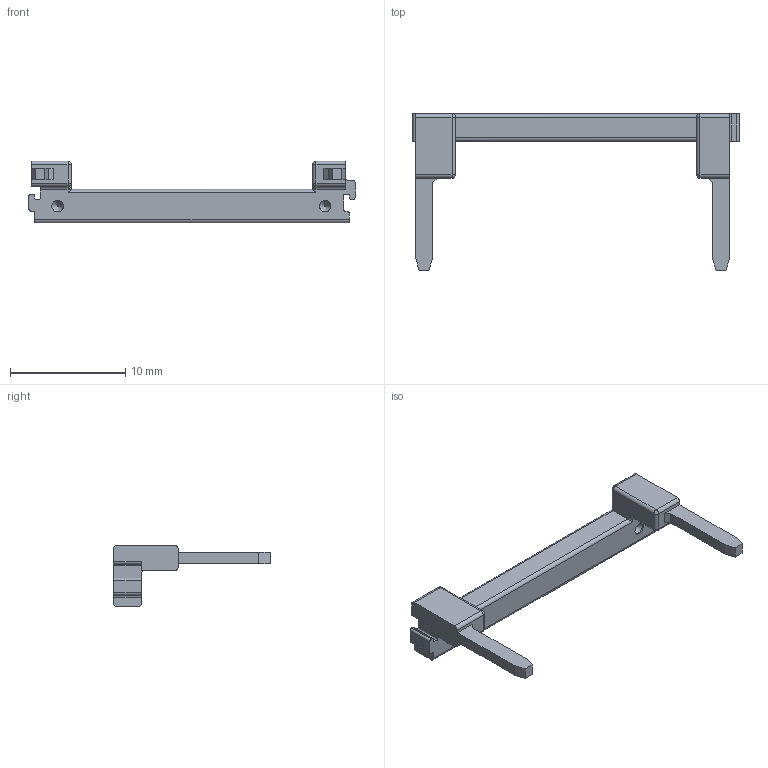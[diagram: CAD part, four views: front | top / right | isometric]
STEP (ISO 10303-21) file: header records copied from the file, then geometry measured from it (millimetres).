
FILE_DESCRIPTION(/* description */ (''),/* implementation_level */ '2;1');
FILE_NAME(/* name */ 'RF-NCP08F-2P.stp',/* time_stamp */ '2022-07-06T15:57:43+08:00',/* author */ (''),/* organization */ (''),/* preprocessor_version */ 'ST-DEVELOPER v16.7',/* originating_system */ 'SIEMENS PLM Software NX 12.0',/* authorisation */ '');
FILE_SCHEMA (('AUTOMOTIVE_DESIGN { 1 0 10303 214 3 1 1 1 }'));
Length unit declared in the file: millimetre
Products named in the file (1): RF-NCP08F-2P
Bounding box: 28.35 x 13.6 x 5.35 mm (x, y, z)
Volume: 292.1 mm3; surface area: 501.7 mm2
Topology: 1 solids, 1 shells, 105 faces, 269 edges, 164 vertices
Faces by surface type: plane 51, cylinder 42, sphere 6, cone 4, bspline 2
Full cylindrical faces by diameter (mm): 1 x4
Entity records: 3099 total; most frequent: CARTESIAN_POINT 573, DIRECTION 535, ORIENTED_EDGE 502, EDGE_CURVE 251, AXIS2_PLACEMENT_3D 184, LINE 167, VECTOR 167, VERTEX_POINT 162
